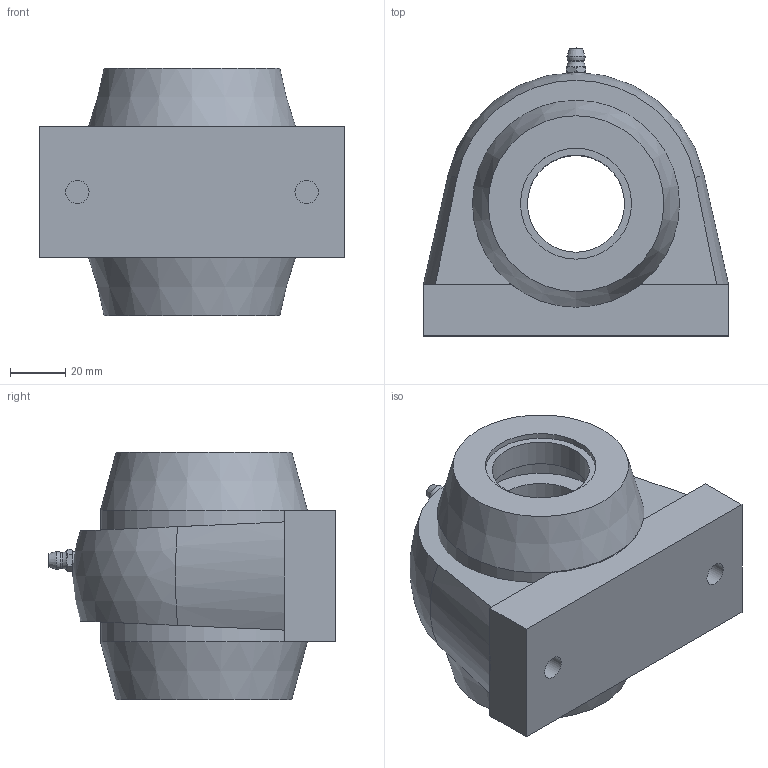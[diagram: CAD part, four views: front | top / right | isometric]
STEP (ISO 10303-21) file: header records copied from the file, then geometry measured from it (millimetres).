
FILE_DESCRIPTION(/* description */ (''),/* implementation_level */ '2;1');
FILE_NAME(/* name */ 'C:\Users\UGijyutu_200702\Desktop\77.プラスチックハウジング\MBTBL200V\MBTBL200VC\MBTBL207VC.stp',/* time_stamp */ '2024-05-28T12:59:06+09:00',/* author */ ('UGijyutu_200702'),/* organization */ (''),/* preprocessor_version */ 'ST-DEVELOPER v18',/* originating_system */ 'Autodesk Inventor 2020',/* authorisation */ '');
FILE_SCHEMA (('AUTOMOTIVE_DESIGN { 1 0 10303 214 3 1 1 }'));
Length unit declared in the file: millimetre
Products named in the file (5): MBTBL207V; TBL207; MB7 V; 1/4-28UNF-2A; 207C
Assembly tree (5 placements, depth 2):
  MBTBL207V
    TBL207
    MB7 V
    1/4-28UNF-2A
    207C  x2
Bounding box: 110 x 103.8 x 89.3 mm (x, y, z)
Volume: 294967.8 mm3; surface area: 91679.5 mm2
Topology: 5 solids, 5 shells, 109 faces, 263 edges, 181 vertices
Faces by surface type: plane 56, cylinder 27, cone 19, sphere 5, torus 2
Full cylindrical faces by diameter (mm): 3.2 x1, 5.359 x1, 6 x2, 6.35 x1, 8.376 x2, 35 x3, 40 x2, 48 x1, 51 x2, 70.6 x2, 74 x2, 74.6 x2
Entity records: 3365 total; most frequent: CARTESIAN_POINT 761, DIRECTION 525, ORIENTED_EDGE 474, EDGE_CURVE 237, AXIS2_PLACEMENT_3D 219, VERTEX_POINT 163, EDGE_LOOP 120, CIRCLE 102
